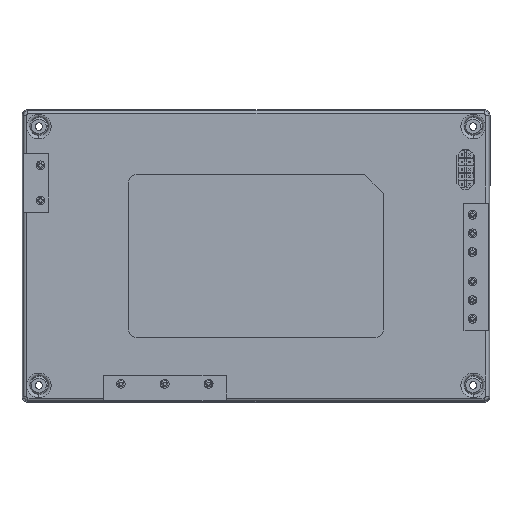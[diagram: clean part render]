
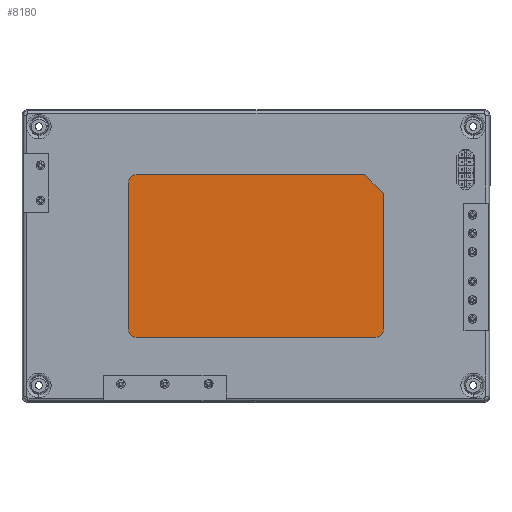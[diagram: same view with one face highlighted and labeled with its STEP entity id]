
A CAD part, front view. The second image highlights one B-rep face of the part: STEP entity #8180.
In plain terms, the highlighted planar face has unit normal (0, -1, 0).
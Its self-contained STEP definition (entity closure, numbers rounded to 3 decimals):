
#60 = ORIENTED_EDGE ( 'NONE', *, *, #13389, .T. ) ;
#698 = DIRECTION ( 'NONE',  ( 0., 0., 1. ) ) ;
#1156 = EDGE_LOOP ( 'NONE', ( #60, #15325, #5244, #8424, #5293, #11657, #8710, #15633 ) ) ;
#1435 = DIRECTION ( 'NONE',  ( 0., -1., 0. ) ) ;
#1507 = CIRCLE ( 'NONE', #5405, 2.5 ) ;
#2361 = CARTESIAN_POINT ( 'NONE',  ( 43.5, 0.46, 21.45 ) ) ;
#2580 = CARTESIAN_POINT ( 'NONE',  ( 41., 0.46, -25.25 ) ) ;
#2596 = AXIS2_PLACEMENT_3D ( 'NONE', #12216, #10545, #8867 ) ;
#3064 = CARTESIAN_POINT ( 'NONE',  ( -41., 0.46, -25.25 ) ) ;
#3372 = DIRECTION ( 'NONE',  ( -1., 0., 0. ) ) ;
#3975 = LINE ( 'NONE', #2361, #11525 ) ;
#4806 = DIRECTION ( 'NONE',  ( -0.707, 0., 0.707 ) ) ;
#4982 = CARTESIAN_POINT ( 'NONE',  ( -41., 0.46, 27.75 ) ) ;
#5043 = CARTESIAN_POINT ( 'NONE',  ( -43.5, 0.46, 25.25 ) ) ;
#5244 = ORIENTED_EDGE ( 'NONE', *, *, #7047, .T. ) ;
#5293 = ORIENTED_EDGE ( 'NONE', *, *, #7308, .T. ) ;
#5405 = AXIS2_PLACEMENT_3D ( 'NONE', #2580, #15406, #13754 ) ;
#5726 = VECTOR ( 'NONE', #10249, 1000. ) ;
#5865 = VERTEX_POINT ( 'NONE', #5043 ) ;
#6427 = CARTESIAN_POINT ( 'NONE',  ( 37.2, 0.46, 27.75 ) ) ;
#6612 = LINE ( 'NONE', #4982, #11348 ) ;
#6865 = EDGE_CURVE ( 'NONE', #10958, #10621, #8070, .T. ) ;
#7012 = CIRCLE ( 'NONE', #11761, 2.5 ) ;
#7047 = EDGE_CURVE ( 'NONE', #14260, #15769, #7012, .T. ) ;
#7308 = EDGE_CURVE ( 'NONE', #10101, #9936, #1507, .T. ) ;
#8070 = LINE ( 'NONE', #6427, #12931 ) ;
#8170 = DIRECTION ( 'NONE',  ( 0., 0., -1. ) ) ;
#8180 = ADVANCED_FACE ( 'NONE', ( #14575 ), #13901, .T. ) ;
#8424 = ORIENTED_EDGE ( 'NONE', *, *, #13926, .T. ) ;
#8710 = ORIENTED_EDGE ( 'NONE', *, *, #6865, .T. ) ;
#8867 = DIRECTION ( 'NONE',  ( 0., 0., -1. ) ) ;
#9603 = EDGE_CURVE ( 'NONE', #5865, #14260, #15336, .T. ) ;
#9833 = DIRECTION ( 'NONE',  ( 0., -1., 0. ) ) ;
#9936 = VERTEX_POINT ( 'NONE', #12069 ) ;
#10101 = VERTEX_POINT ( 'NONE', #15389 ) ;
#10249 = DIRECTION ( 'NONE',  ( 1., 0., 0. ) ) ;
#10298 = CARTESIAN_POINT ( 'NONE',  ( 37.2, 0.46, 27.75 ) ) ;
#10545 = DIRECTION ( 'NONE',  ( 0., -1., 0. ) ) ;
#10621 = VERTEX_POINT ( 'NONE', #10298 ) ;
#10958 = VERTEX_POINT ( 'NONE', #15379 ) ;
#11348 = VECTOR ( 'NONE', #3372, 1000. ) ;
#11493 = CARTESIAN_POINT ( 'NONE',  ( -41., 0.46, 25.25 ) ) ;
#11525 = VECTOR ( 'NONE', #698, 1000. ) ;
#11657 = ORIENTED_EDGE ( 'NONE', *, *, #12697, .T. ) ;
#11761 = AXIS2_PLACEMENT_3D ( 'NONE', #3064, #1435, #15916 ) ;
#11912 = CARTESIAN_POINT ( 'NONE',  ( -41., 0.46, -27.75 ) ) ;
#11986 = DIRECTION ( 'NONE',  ( 0., 0., -1. ) ) ;
#12069 = CARTESIAN_POINT ( 'NONE',  ( 43.5, 0.46, -25.25 ) ) ;
#12216 = CARTESIAN_POINT ( 'NONE',  ( -41., 0.46, 25.25 ) ) ;
#12270 = VECTOR ( 'NONE', #11986, 1000. ) ;
#12697 = EDGE_CURVE ( 'NONE', #9936, #10958, #3975, .T. ) ;
#12931 = VECTOR ( 'NONE', #4806, 1000. ) ;
#13389 = EDGE_CURVE ( 'NONE', #13918, #5865, #14968, .T. ) ;
#13605 = LINE ( 'NONE', #11912, #5726 ) ;
#13678 = CARTESIAN_POINT ( 'NONE',  ( -43.5, 0.46, 25.25 ) ) ;
#13682 = AXIS2_PLACEMENT_3D ( 'NONE', #11493, #9833, #8170 ) ;
#13754 = DIRECTION ( 'NONE',  ( 0., 0., -1. ) ) ;
#13777 = CARTESIAN_POINT ( 'NONE',  ( -43.5, 0.46, -25.25 ) ) ;
#13901 = PLANE ( 'NONE',  #2596 ) ;
#13918 = VERTEX_POINT ( 'NONE', #15255 ) ;
#13926 = EDGE_CURVE ( 'NONE', #15769, #10101, #13605, .T. ) ;
#14229 = EDGE_CURVE ( 'NONE', #10621, #13918, #6612, .T. ) ;
#14260 = VERTEX_POINT ( 'NONE', #13777 ) ;
#14575 = FACE_OUTER_BOUND ( 'NONE', #1156, .T. ) ;
#14968 = CIRCLE ( 'NONE', #13682, 2.5 ) ;
#15255 = CARTESIAN_POINT ( 'NONE',  ( -41., 0.46, 27.75 ) ) ;
#15325 = ORIENTED_EDGE ( 'NONE', *, *, #9603, .T. ) ;
#15336 = LINE ( 'NONE', #13678, #12270 ) ;
#15379 = CARTESIAN_POINT ( 'NONE',  ( 43.5, 0.46, 21.45 ) ) ;
#15389 = CARTESIAN_POINT ( 'NONE',  ( 41., 0.46, -27.75 ) ) ;
#15406 = DIRECTION ( 'NONE',  ( 0., -1., 0. ) ) ;
#15523 = CARTESIAN_POINT ( 'NONE',  ( -41., 0.46, -27.75 ) ) ;
#15633 = ORIENTED_EDGE ( 'NONE', *, *, #14229, .T. ) ;
#15769 = VERTEX_POINT ( 'NONE', #15523 ) ;
#15916 = DIRECTION ( 'NONE',  ( 0., 0., -1. ) ) ;
